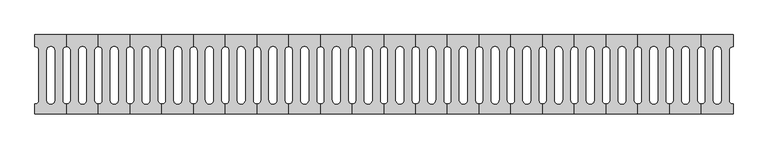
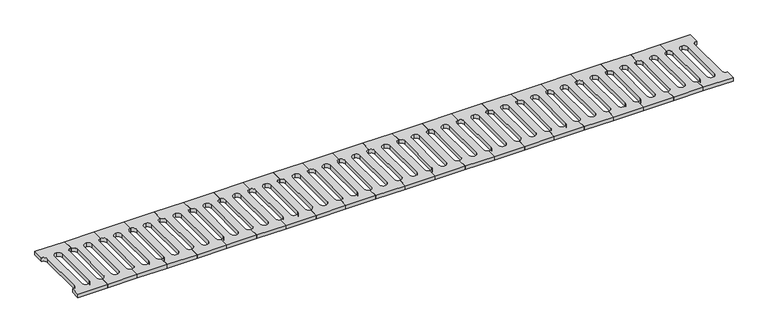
"""IFC4 building model written with IfcOpenShell, lengths in millimetres: proxy geometry, 排水沟盖板 : 排水沟盖板."""

from ifc_helpers import new_model, si_unit, point, frame, frame_2d, origin, place, context, project, spatial, polyline, circle_curve, trimmed, segment, composite_curve, outline, extrude, source, transform, mapped, element, save


def generic_models_980c342f(model_context):
    return source(origin(), model_context, "Body", "SweptSolid", [
        extrude(outline(composite_curve([segment(polyline([(6080.0, 200.0), (6080.0, 140.0)]), True, "CONTINUOUS"), segment(trimmed(circle_curve(frame_2d((6080.0, 120.0)), 20.0), [point((6080.0, 140.0))], [point((6060.0, 120.0))], True, "CARTESIAN"), True, "CONTINUOUS"), segment(polyline([(6060.0, 120.0), (6060.0, -130.0)]), True, "CONTINUOUS"), segment(trimmed(circle_curve(frame_2d((6080.0, -130.0)), 20.0), [point((6060.0, -130.0))], [point((6080.0, -150.0))], True, "CARTESIAN"), True, "CONTINUOUS"), segment(polyline([(6080.0, -150.0), (6080.0, -200.0), (5920.0, -200.0), (5920.0, -150.0)]), True, "CONTINUOUS"), segment(trimmed(circle_curve(frame_2d((5920.0, -130.0)), 20.0), [point((5920.0, -150.0))], [point((5940.0, -130.0))], True, "CARTESIAN"), True, "CONTINUOUS"), segment(polyline([(5940.0, -130.0), (5940.0, 120.0)]), True, "CONTINUOUS"), segment(trimmed(circle_curve(frame_2d((5920.0, 120.0)), 20.0), [point((5940.0, 120.0))], [point((5920.0, 140.0))], True, "CARTESIAN"), True, "CONTINUOUS"), segment(polyline([(5920.0, 140.0), (5920.0, 200.0), (6080.0, 200.0)]), True, "CONTINUOUS")], self_intersect=False), holes=[composite_curve([segment(trimmed(circle_curve(frame_2d((6000.0, -130.0)), 20.0), [point((5980.0, -130.0))], [point((6000.0, -150.0))], True, "CARTESIAN"), True, "CONTINUOUS"), segment(trimmed(circle_curve(frame_2d((6000.0, -130.0)), 20.0), [point((6000.0, -150.0))], [point((6020.0, -130.0))], True, "CARTESIAN"), True, "CONTINUOUS"), segment(polyline([(6020.0, -130.0), (6020.0, 120.0)]), True, "CONTINUOUS"), segment(trimmed(circle_curve(frame_2d((6000.0, 120.0)), 20.0), [point((6020.0, 120.0))], [point((6000.0, 140.0))], True, "CARTESIAN"), True, "CONTINUOUS"), segment(trimmed(circle_curve(frame_2d((6000.0, 120.0)), 20.0), [point((6000.0, 140.0))], [point((5980.0, 120.0))], True, "CARTESIAN"), True, "CONTINUOUS"), segment(polyline([(5980.0, 120.0), (5980.0, -130.0)]), True, "CONTINUOUS")], self_intersect=False)]), frame((0.0, 0.0, -20.0), z_axis=(0.0, 0.0, 1.0), x_axis=(1.0, 0.0, 0.0)), (0.0, 0.0, 1.0), 20.0),
        extrude(outline(composite_curve([segment(polyline([(5920.0, 200.0), (5920.0, 140.0)]), True, "CONTINUOUS"), segment(trimmed(circle_curve(frame_2d((5920.0, 120.0)), 20.0), [point((5920.0, 140.0))], [point((5900.0, 120.0))], True, "CARTESIAN"), True, "CONTINUOUS"), segment(polyline([(5900.0, 120.0), (5900.0, -130.0)]), True, "CONTINUOUS"), segment(trimmed(circle_curve(frame_2d((5920.0, -130.0)), 20.0), [point((5900.0, -130.0))], [point((5920.0, -150.0))], True, "CARTESIAN"), True, "CONTINUOUS"), segment(polyline([(5920.0, -150.0), (5920.0, -200.0), (5760.0, -200.0), (5760.0, -150.0)]), True, "CONTINUOUS"), segment(trimmed(circle_curve(frame_2d((5760.0, -130.0)), 20.0), [point((5760.0, -150.0))], [point((5780.0, -130.0))], True, "CARTESIAN"), True, "CONTINUOUS"), segment(polyline([(5780.0, -130.0), (5780.0, 120.0)]), True, "CONTINUOUS"), segment(trimmed(circle_curve(frame_2d((5760.0, 120.0)), 20.0), [point((5780.0, 120.0))], [point((5760.0, 140.0))], True, "CARTESIAN"), True, "CONTINUOUS"), segment(polyline([(5760.0, 140.0), (5760.0, 200.0), (5920.0, 200.0)]), True, "CONTINUOUS")], self_intersect=False), holes=[composite_curve([segment(trimmed(circle_curve(frame_2d((5840.0, -130.0)), 20.0), [point((5820.0, -130.0))], [point((5840.0, -150.0))], True, "CARTESIAN"), True, "CONTINUOUS"), segment(trimmed(circle_curve(frame_2d((5840.0, -130.0)), 20.0), [point((5840.0, -150.0))], [point((5860.0, -130.0))], True, "CARTESIAN"), True, "CONTINUOUS"), segment(polyline([(5860.0, -130.0), (5860.0, 120.0)]), True, "CONTINUOUS"), segment(trimmed(circle_curve(frame_2d((5840.0, 120.0)), 20.0), [point((5860.0, 120.0))], [point((5840.0, 140.0))], True, "CARTESIAN"), True, "CONTINUOUS"), segment(trimmed(circle_curve(frame_2d((5840.0, 120.0)), 20.0), [point((5840.0, 140.0))], [point((5820.0, 120.0))], True, "CARTESIAN"), True, "CONTINUOUS"), segment(polyline([(5820.0, 120.0), (5820.0, -130.0)]), True, "CONTINUOUS")], self_intersect=False)]), frame((0.0, 0.0, -20.0), z_axis=(0.0, 0.0, 1.0), x_axis=(1.0, 0.0, 0.0)), (0.0, 0.0, 1.0), 20.0),
        extrude(outline(composite_curve([segment(polyline([(5760.0, 200.0), (5760.0, 140.0)]), True, "CONTINUOUS"), segment(trimmed(circle_curve(frame_2d((5760.0, 120.0)), 20.0), [point((5760.0, 140.0))], [point((5740.0, 120.0))], True, "CARTESIAN"), True, "CONTINUOUS"), segment(polyline([(5740.0, 120.0), (5740.0, -130.0)]), True, "CONTINUOUS"), segment(trimmed(circle_curve(frame_2d((5760.0, -130.0)), 20.0), [point((5740.0, -130.0))], [point((5760.0, -150.0))], True, "CARTESIAN"), True, "CONTINUOUS"), segment(polyline([(5760.0, -150.0), (5760.0, -200.0), (5600.0, -200.0), (5600.0, -150.0)]), True, "CONTINUOUS"), segment(trimmed(circle_curve(frame_2d((5600.0, -130.0)), 20.0), [point((5600.0, -150.0))], [point((5620.0, -130.0))], True, "CARTESIAN"), True, "CONTINUOUS"), segment(polyline([(5620.0, -130.0), (5620.0, 120.0)]), True, "CONTINUOUS"), segment(trimmed(circle_curve(frame_2d((5600.0, 120.0)), 20.0), [point((5620.0, 120.0))], [point((5600.0, 140.0))], True, "CARTESIAN"), True, "CONTINUOUS"), segment(polyline([(5600.0, 140.0), (5600.0, 200.0), (5760.0, 200.0)]), True, "CONTINUOUS")], self_intersect=False), holes=[composite_curve([segment(trimmed(circle_curve(frame_2d((5680.0, -130.0)), 20.0), [point((5660.0, -130.0))], [point((5680.0, -150.0))], True, "CARTESIAN"), True, "CONTINUOUS"), segment(trimmed(circle_curve(frame_2d((5680.0, -130.0)), 20.0), [point((5680.0, -150.0))], [point((5700.0, -130.0))], True, "CARTESIAN"), True, "CONTINUOUS"), segment(polyline([(5700.0, -130.0), (5700.0, 120.0)]), True, "CONTINUOUS"), segment(trimmed(circle_curve(frame_2d((5680.0, 120.0)), 20.0), [point((5700.0, 120.0))], [point((5680.0, 140.0))], True, "CARTESIAN"), True, "CONTINUOUS"), segment(trimmed(circle_curve(frame_2d((5680.0, 120.0)), 20.0), [point((5680.0, 140.0))], [point((5660.0, 120.0))], True, "CARTESIAN"), True, "CONTINUOUS"), segment(polyline([(5660.0, 120.0), (5660.0, -130.0)]), True, "CONTINUOUS")], self_intersect=False)]), frame((0.0, 0.0, -20.0), z_axis=(0.0, 0.0, 1.0), x_axis=(1.0, 0.0, 0.0)), (0.0, 0.0, 1.0), 20.0),
        extrude(outline(composite_curve([segment(polyline([(5600.0, 200.0), (5600.0, 140.0)]), True, "CONTINUOUS"), segment(trimmed(circle_curve(frame_2d((5600.0, 120.0)), 20.0), [point((5600.0, 140.0))], [point((5580.0, 120.0))], True, "CARTESIAN"), True, "CONTINUOUS"), segment(polyline([(5580.0, 120.0), (5580.0, -130.0)]), True, "CONTINUOUS"), segment(trimmed(circle_curve(frame_2d((5600.0, -130.0)), 20.0), [point((5580.0, -130.0))], [point((5600.0, -150.0))], True, "CARTESIAN"), True, "CONTINUOUS"), segment(polyline([(5600.0, -150.0), (5600.0, -200.0), (5440.0, -200.0), (5440.0, -150.0)]), True, "CONTINUOUS"), segment(trimmed(circle_curve(frame_2d((5440.0, -130.0)), 20.0), [point((5440.0, -150.0))], [point((5460.0, -130.0))], True, "CARTESIAN"), True, "CONTINUOUS"), segment(polyline([(5460.0, -130.0), (5460.0, 120.0)]), True, "CONTINUOUS"), segment(trimmed(circle_curve(frame_2d((5440.0, 120.0)), 20.0), [point((5460.0, 120.0))], [point((5440.0, 140.0))], True, "CARTESIAN"), True, "CONTINUOUS"), segment(polyline([(5440.0, 140.0), (5440.0, 200.0), (5600.0, 200.0)]), True, "CONTINUOUS")], self_intersect=False), holes=[composite_curve([segment(trimmed(circle_curve(frame_2d((5520.0, -130.0)), 20.0), [point((5500.0, -130.0))], [point((5520.0, -150.0))], True, "CARTESIAN"), True, "CONTINUOUS"), segment(trimmed(circle_curve(frame_2d((5520.0, -130.0)), 20.0), [point((5520.0, -150.0))], [point((5540.0, -130.0))], True, "CARTESIAN"), True, "CONTINUOUS"), segment(polyline([(5540.0, -130.0), (5540.0, 120.0)]), True, "CONTINUOUS"), segment(trimmed(circle_curve(frame_2d((5520.0, 120.0)), 20.0), [point((5540.0, 120.0))], [point((5520.0, 140.0))], True, "CARTESIAN"), True, "CONTINUOUS"), segment(trimmed(circle_curve(frame_2d((5520.0, 120.0)), 20.0), [point((5520.0, 140.0))], [point((5500.0, 120.0))], True, "CARTESIAN"), True, "CONTINUOUS"), segment(polyline([(5500.0, 120.0), (5500.0, -130.0)]), True, "CONTINUOUS")], self_intersect=False)]), frame((0.0, 0.0, -20.0), z_axis=(0.0, 0.0, 1.0), x_axis=(1.0, 0.0, 0.0)), (0.0, 0.0, 1.0), 20.0),
        extrude(outline(composite_curve([segment(polyline([(5440.0, 200.0), (5440.0, 140.0)]), True, "CONTINUOUS"), segment(trimmed(circle_curve(frame_2d((5440.0, 120.0)), 20.0), [point((5440.0, 140.0))], [point((5420.0, 120.0))], True, "CARTESIAN"), True, "CONTINUOUS"), segment(polyline([(5420.0, 120.0), (5420.0, -130.0)]), True, "CONTINUOUS"), segment(trimmed(circle_curve(frame_2d((5440.0, -130.0)), 20.0), [point((5420.0, -130.0))], [point((5440.0, -150.0))], True, "CARTESIAN"), True, "CONTINUOUS"), segment(polyline([(5440.0, -150.0), (5440.0, -200.0), (5280.0, -200.0), (5280.0, -150.0)]), True, "CONTINUOUS"), segment(trimmed(circle_curve(frame_2d((5280.0, -130.0)), 20.0), [point((5280.0, -150.0))], [point((5300.0, -130.0))], True, "CARTESIAN"), True, "CONTINUOUS"), segment(polyline([(5300.0, -130.0), (5300.0, 120.0)]), True, "CONTINUOUS"), segment(trimmed(circle_curve(frame_2d((5280.0, 120.0)), 20.0), [point((5300.0, 120.0))], [point((5280.0, 140.0))], True, "CARTESIAN"), True, "CONTINUOUS"), segment(polyline([(5280.0, 140.0), (5280.0, 200.0), (5440.0, 200.0)]), True, "CONTINUOUS")], self_intersect=False), holes=[composite_curve([segment(trimmed(circle_curve(frame_2d((5360.0, -130.0)), 20.0), [point((5340.0, -130.0))], [point((5360.0, -150.0))], True, "CARTESIAN"), True, "CONTINUOUS"), segment(trimmed(circle_curve(frame_2d((5360.0, -130.0)), 20.0), [point((5360.0, -150.0))], [point((5380.0, -130.0))], True, "CARTESIAN"), True, "CONTINUOUS"), segment(polyline([(5380.0, -130.0), (5380.0, 120.0)]), True, "CONTINUOUS"), segment(trimmed(circle_curve(frame_2d((5360.0, 120.0)), 20.0), [point((5380.0, 120.0))], [point((5360.0, 140.0))], True, "CARTESIAN"), True, "CONTINUOUS"), segment(trimmed(circle_curve(frame_2d((5360.0, 120.0)), 20.0), [point((5360.0, 140.0))], [point((5340.0, 120.0))], True, "CARTESIAN"), True, "CONTINUOUS"), segment(polyline([(5340.0, 120.0), (5340.0, -130.0)]), True, "CONTINUOUS")], self_intersect=False)]), frame((0.0, 0.0, -20.0), z_axis=(0.0, 0.0, 1.0), x_axis=(1.0, 0.0, 0.0)), (0.0, 0.0, 1.0), 20.0),
        extrude(outline(composite_curve([segment(polyline([(5280.0, 200.0), (5280.0, 140.0)]), True, "CONTINUOUS"), segment(trimmed(circle_curve(frame_2d((5280.0, 120.0)), 20.0), [point((5280.0, 140.0))], [point((5260.0, 120.0))], True, "CARTESIAN"), True, "CONTINUOUS"), segment(polyline([(5260.0, 120.0), (5260.0, -130.0)]), True, "CONTINUOUS"), segment(trimmed(circle_curve(frame_2d((5280.0, -130.0)), 20.0), [point((5260.0, -130.0))], [point((5280.0, -150.0))], True, "CARTESIAN"), True, "CONTINUOUS"), segment(polyline([(5280.0, -150.0), (5280.0, -200.0), (5120.0, -200.0), (5120.0, -150.0)]), True, "CONTINUOUS"), segment(trimmed(circle_curve(frame_2d((5120.0, -130.0)), 20.0), [point((5120.0, -150.0))], [point((5140.0, -130.0))], True, "CARTESIAN"), True, "CONTINUOUS"), segment(polyline([(5140.0, -130.0), (5140.0, 120.0)]), True, "CONTINUOUS"), segment(trimmed(circle_curve(frame_2d((5120.0, 120.0)), 20.0), [point((5140.0, 120.0))], [point((5120.0, 140.0))], True, "CARTESIAN"), True, "CONTINUOUS"), segment(polyline([(5120.0, 140.0), (5120.0, 200.0), (5280.0, 200.0)]), True, "CONTINUOUS")], self_intersect=False), holes=[composite_curve([segment(trimmed(circle_curve(frame_2d((5200.0, -130.0)), 20.0), [point((5180.0, -130.0))], [point((5200.0, -150.0))], True, "CARTESIAN"), True, "CONTINUOUS"), segment(trimmed(circle_curve(frame_2d((5200.0, -130.0)), 20.0), [point((5200.0, -150.0))], [point((5220.0, -130.0))], True, "CARTESIAN"), True, "CONTINUOUS"), segment(polyline([(5220.0, -130.0), (5220.0, 120.0)]), True, "CONTINUOUS"), segment(trimmed(circle_curve(frame_2d((5200.0, 120.0)), 20.0), [point((5220.0, 120.0))], [point((5200.0, 140.0))], True, "CARTESIAN"), True, "CONTINUOUS"), segment(trimmed(circle_curve(frame_2d((5200.0, 120.0)), 20.0), [point((5200.0, 140.0))], [point((5180.0, 120.0))], True, "CARTESIAN"), True, "CONTINUOUS"), segment(polyline([(5180.0, 120.0), (5180.0, -130.0)]), True, "CONTINUOUS")], self_intersect=False)]), frame((0.0, 0.0, -20.0), z_axis=(0.0, 0.0, 1.0), x_axis=(1.0, 0.0, 0.0)), (0.0, 0.0, 1.0), 20.0),
        extrude(outline(composite_curve([segment(polyline([(5120.0, 200.0), (5120.0, 140.0)]), True, "CONTINUOUS"), segment(trimmed(circle_curve(frame_2d((5120.0, 120.0)), 20.0), [point((5120.0, 140.0))], [point((5100.0, 120.0))], True, "CARTESIAN"), True, "CONTINUOUS"), segment(polyline([(5100.0, 120.0), (5100.0, -130.0)]), True, "CONTINUOUS"), segment(trimmed(circle_curve(frame_2d((5120.0, -130.0)), 20.0), [point((5100.0, -130.0))], [point((5120.0, -150.0))], True, "CARTESIAN"), True, "CONTINUOUS"), segment(polyline([(5120.0, -150.0), (5120.0, -200.0), (4960.0, -200.0), (4960.0, -150.0)]), True, "CONTINUOUS"), segment(trimmed(circle_curve(frame_2d((4960.0, -130.0)), 20.0), [point((4960.0, -150.0))], [point((4980.0, -130.0))], True, "CARTESIAN"), True, "CONTINUOUS"), segment(polyline([(4980.0, -130.0), (4980.0, 120.0)]), True, "CONTINUOUS"), segment(trimmed(circle_curve(frame_2d((4960.0, 120.0)), 20.0), [point((4980.0, 120.0))], [point((4960.0, 140.0))], True, "CARTESIAN"), True, "CONTINUOUS"), segment(polyline([(4960.0, 140.0), (4960.0, 200.0), (5120.0, 200.0)]), True, "CONTINUOUS")], self_intersect=False), holes=[composite_curve([segment(trimmed(circle_curve(frame_2d((5040.0, -130.0)), 20.0), [point((5020.0, -130.0))], [point((5040.0, -150.0))], True, "CARTESIAN"), True, "CONTINUOUS"), segment(trimmed(circle_curve(frame_2d((5040.0, -130.0)), 20.0), [point((5040.0, -150.0))], [point((5060.0, -130.0))], True, "CARTESIAN"), True, "CONTINUOUS"), segment(polyline([(5060.0, -130.0), (5060.0, 120.0)]), True, "CONTINUOUS"), segment(trimmed(circle_curve(frame_2d((5040.0, 120.0)), 20.0), [point((5060.0, 120.0))], [point((5040.0, 140.0))], True, "CARTESIAN"), True, "CONTINUOUS"), segment(trimmed(circle_curve(frame_2d((5040.0, 120.0)), 20.0), [point((5040.0, 140.0))], [point((5020.0, 120.0))], True, "CARTESIAN"), True, "CONTINUOUS"), segment(polyline([(5020.0, 120.0), (5020.0, -130.0)]), True, "CONTINUOUS")], self_intersect=False)]), frame((0.0, 0.0, -20.0), z_axis=(0.0, 0.0, 1.0), x_axis=(1.0, 0.0, 0.0)), (0.0, 0.0, 1.0), 20.0),
        extrude(outline(composite_curve([segment(polyline([(4960.0, 200.0), (4960.0, 140.0)]), True, "CONTINUOUS"), segment(trimmed(circle_curve(frame_2d((4960.0, 120.0)), 20.0), [point((4960.0, 140.0))], [point((4940.0, 120.0))], True, "CARTESIAN"), True, "CONTINUOUS"), segment(polyline([(4940.0, 120.0), (4940.0, -130.0)]), True, "CONTINUOUS"), segment(trimmed(circle_curve(frame_2d((4960.0, -130.0)), 20.0), [point((4940.0, -130.0))], [point((4960.0, -150.0))], True, "CARTESIAN"), True, "CONTINUOUS"), segment(polyline([(4960.0, -150.0), (4960.0, -200.0), (4800.0, -200.0), (4800.0, -150.0)]), True, "CONTINUOUS"), segment(trimmed(circle_curve(frame_2d((4800.0, -130.0)), 20.0), [point((4800.0, -150.0))], [point((4820.0, -130.0))], True, "CARTESIAN"), True, "CONTINUOUS"), segment(polyline([(4820.0, -130.0), (4820.0, 120.0)]), True, "CONTINUOUS"), segment(trimmed(circle_curve(frame_2d((4800.0, 120.0)), 20.0), [point((4820.0, 120.0))], [point((4800.0, 140.0))], True, "CARTESIAN"), True, "CONTINUOUS"), segment(polyline([(4800.0, 140.0), (4800.0, 200.0), (4960.0, 200.0)]), True, "CONTINUOUS")], self_intersect=False), holes=[composite_curve([segment(trimmed(circle_curve(frame_2d((4880.0, -130.0)), 20.0), [point((4860.0, -130.0))], [point((4880.0, -150.0))], True, "CARTESIAN"), True, "CONTINUOUS"), segment(trimmed(circle_curve(frame_2d((4880.0, -130.0)), 20.0), [point((4880.0, -150.0))], [point((4900.0, -130.0))], True, "CARTESIAN"), True, "CONTINUOUS"), segment(polyline([(4900.0, -130.0), (4900.0, 120.0)]), True, "CONTINUOUS"), segment(trimmed(circle_curve(frame_2d((4880.0, 120.0)), 20.0), [point((4900.0, 120.0))], [point((4880.0, 140.0))], True, "CARTESIAN"), True, "CONTINUOUS"), segment(trimmed(circle_curve(frame_2d((4880.0, 120.0)), 20.0), [point((4880.0, 140.0))], [point((4860.0, 120.0))], True, "CARTESIAN"), True, "CONTINUOUS"), segment(polyline([(4860.0, 120.0), (4860.0, -130.0)]), True, "CONTINUOUS")], self_intersect=False)]), frame((0.0, 0.0, -20.0), z_axis=(0.0, 0.0, 1.0), x_axis=(1.0, 0.0, 0.0)), (0.0, 0.0, 1.0), 20.0),
        extrude(outline(composite_curve([segment(polyline([(4800.0, 200.0), (4800.0, 140.0)]), True, "CONTINUOUS"), segment(trimmed(circle_curve(frame_2d((4800.0, 120.0)), 20.0), [point((4800.0, 140.0))], [point((4780.0, 120.0))], True, "CARTESIAN"), True, "CONTINUOUS"), segment(polyline([(4780.0, 120.0), (4780.0, -130.0)]), True, "CONTINUOUS"), segment(trimmed(circle_curve(frame_2d((4800.0, -130.0)), 20.0), [point((4780.0, -130.0))], [point((4800.0, -150.0))], True, "CARTESIAN"), True, "CONTINUOUS"), segment(polyline([(4800.0, -150.0), (4800.0, -200.0), (4640.0, -200.0), (4640.0, -150.0)]), True, "CONTINUOUS"), segment(trimmed(circle_curve(frame_2d((4640.0, -130.0)), 20.0), [point((4640.0, -150.0))], [point((4660.0, -130.0))], True, "CARTESIAN"), True, "CONTINUOUS"), segment(polyline([(4660.0, -130.0), (4660.0, 120.0)]), True, "CONTINUOUS"), segment(trimmed(circle_curve(frame_2d((4640.0, 120.0)), 20.0), [point((4660.0, 120.0))], [point((4640.0, 140.0))], True, "CARTESIAN"), True, "CONTINUOUS"), segment(polyline([(4640.0, 140.0), (4640.0, 200.0), (4800.0, 200.0)]), True, "CONTINUOUS")], self_intersect=False), holes=[composite_curve([segment(trimmed(circle_curve(frame_2d((4720.0, -130.0)), 20.0), [point((4700.0, -130.0))], [point((4720.0, -150.0))], True, "CARTESIAN"), True, "CONTINUOUS"), segment(trimmed(circle_curve(frame_2d((4720.0, -130.0)), 20.0), [point((4720.0, -150.0))], [point((4740.0, -130.0))], True, "CARTESIAN"), True, "CONTINUOUS"), segment(polyline([(4740.0, -130.0), (4740.0, 120.0)]), True, "CONTINUOUS"), segment(trimmed(circle_curve(frame_2d((4720.0, 120.0)), 20.0), [point((4740.0, 120.0))], [point((4720.0, 140.0))], True, "CARTESIAN"), True, "CONTINUOUS"), segment(trimmed(circle_curve(frame_2d((4720.0, 120.0)), 20.0), [point((4720.0, 140.0))], [point((4700.0, 120.0))], True, "CARTESIAN"), True, "CONTINUOUS"), segment(polyline([(4700.0, 120.0), (4700.0, -130.0)]), True, "CONTINUOUS")], self_intersect=False)]), frame((0.0, 0.0, -20.0), z_axis=(0.0, 0.0, 1.0), x_axis=(1.0, 0.0, 0.0)), (0.0, 0.0, 1.0), 20.0),
        extrude(outline(composite_curve([segment(polyline([(4640.0, 200.0), (4640.0, 140.0)]), True, "CONTINUOUS"), segment(trimmed(circle_curve(frame_2d((4640.0, 120.0)), 20.0), [point((4640.0, 140.0))], [point((4620.0, 120.0))], True, "CARTESIAN"), True, "CONTINUOUS"), segment(polyline([(4620.0, 120.0), (4620.0, -130.0)]), True, "CONTINUOUS"), segment(trimmed(circle_curve(frame_2d((4640.0, -130.0)), 20.0), [point((4620.0, -130.0))], [point((4640.0, -150.0))], True, "CARTESIAN"), True, "CONTINUOUS"), segment(polyline([(4640.0, -150.0), (4640.0, -200.0), (4480.0, -200.0), (4480.0, -150.0)]), True, "CONTINUOUS"), segment(trimmed(circle_curve(frame_2d((4480.0, -130.0)), 20.0), [point((4480.0, -150.0))], [point((4500.0, -130.0))], True, "CARTESIAN"), True, "CONTINUOUS"), segment(polyline([(4500.0, -130.0), (4500.0, 120.0)]), True, "CONTINUOUS"), segment(trimmed(circle_curve(frame_2d((4480.0, 120.0)), 20.0), [point((4500.0, 120.0))], [point((4480.0, 140.0))], True, "CARTESIAN"), True, "CONTINUOUS"), segment(polyline([(4480.0, 140.0), (4480.0, 200.0), (4640.0, 200.0)]), True, "CONTINUOUS")], self_intersect=False), holes=[composite_curve([segment(trimmed(circle_curve(frame_2d((4560.0, -130.0)), 20.0), [point((4540.0, -130.0))], [point((4560.0, -150.0))], True, "CARTESIAN"), True, "CONTINUOUS"), segment(trimmed(circle_curve(frame_2d((4560.0, -130.0)), 20.0), [point((4560.0, -150.0))], [point((4580.0, -130.0))], True, "CARTESIAN"), True, "CONTINUOUS"), segment(polyline([(4580.0, -130.0), (4580.0, 120.0)]), True, "CONTINUOUS"), segment(trimmed(circle_curve(frame_2d((4560.0, 120.0)), 20.0), [point((4580.0, 120.0))], [point((4560.0, 140.0))], True, "CARTESIAN"), True, "CONTINUOUS"), segment(trimmed(circle_curve(frame_2d((4560.0, 120.0)), 20.0), [point((4560.0, 140.0))], [point((4540.0, 120.0))], True, "CARTESIAN"), True, "CONTINUOUS"), segment(polyline([(4540.0, 120.0), (4540.0, -130.0)]), True, "CONTINUOUS")], self_intersect=False)]), frame((0.0, 0.0, -20.0), z_axis=(0.0, 0.0, 1.0), x_axis=(1.0, 0.0, 0.0)), (0.0, 0.0, 1.0), 20.0),
        extrude(outline(composite_curve([segment(polyline([(4480.0, 200.0), (4480.0, 140.0)]), True, "CONTINUOUS"), segment(trimmed(circle_curve(frame_2d((4480.0, 120.0)), 20.0), [point((4480.0, 140.0))], [point((4460.0, 120.0))], True, "CARTESIAN"), True, "CONTINUOUS"), segment(polyline([(4460.0, 120.0), (4460.0, -130.0)]), True, "CONTINUOUS"), segment(trimmed(circle_curve(frame_2d((4480.0, -130.0)), 20.0), [point((4460.0, -130.0))], [point((4480.0, -150.0))], True, "CARTESIAN"), True, "CONTINUOUS"), segment(polyline([(4480.0, -150.0), (4480.0, -200.0), (4320.0, -200.0), (4320.0, -150.0)]), True, "CONTINUOUS"), segment(trimmed(circle_curve(frame_2d((4320.0, -130.0)), 20.0), [point((4320.0, -150.0))], [point((4340.0, -130.0))], True, "CARTESIAN"), True, "CONTINUOUS"), segment(polyline([(4340.0, -130.0), (4340.0, 120.0)]), True, "CONTINUOUS"), segment(trimmed(circle_curve(frame_2d((4320.0, 120.0)), 20.0), [point((4340.0, 120.0))], [point((4320.0, 140.0))], True, "CARTESIAN"), True, "CONTINUOUS"), segment(polyline([(4320.0, 140.0), (4320.0, 200.0), (4480.0, 200.0)]), True, "CONTINUOUS")], self_intersect=False), holes=[composite_curve([segment(trimmed(circle_curve(frame_2d((4400.0, -130.0)), 20.0), [point((4380.0, -130.0))], [point((4400.0, -150.0))], True, "CARTESIAN"), True, "CONTINUOUS"), segment(trimmed(circle_curve(frame_2d((4400.0, -130.0)), 20.0), [point((4400.0, -150.0))], [point((4420.0, -130.0))], True, "CARTESIAN"), True, "CONTINUOUS"), segment(polyline([(4420.0, -130.0), (4420.0, 120.0)]), True, "CONTINUOUS"), segment(trimmed(circle_curve(frame_2d((4400.0, 120.0)), 20.0), [point((4420.0, 120.0))], [point((4400.0, 140.0))], True, "CARTESIAN"), True, "CONTINUOUS"), segment(trimmed(circle_curve(frame_2d((4400.0, 120.0)), 20.0), [point((4400.0, 140.0))], [point((4380.0, 120.0))], True, "CARTESIAN"), True, "CONTINUOUS"), segment(polyline([(4380.0, 120.0), (4380.0, -130.0)]), True, "CONTINUOUS")], self_intersect=False)]), frame((0.0, 0.0, -20.0), z_axis=(0.0, 0.0, 1.0), x_axis=(1.0, 0.0, 0.0)), (0.0, 0.0, 1.0), 20.0),
        extrude(outline(composite_curve([segment(polyline([(4320.0, 200.0), (4320.0, 140.0)]), True, "CONTINUOUS"), segment(trimmed(circle_curve(frame_2d((4320.0, 120.0)), 20.0), [point((4320.0, 140.0))], [point((4300.0, 120.0))], True, "CARTESIAN"), True, "CONTINUOUS"), segment(polyline([(4300.0, 120.0), (4300.0, -130.0)]), True, "CONTINUOUS"), segment(trimmed(circle_curve(frame_2d((4320.0, -130.0)), 20.0), [point((4300.0, -130.0))], [point((4320.0, -150.0))], True, "CARTESIAN"), True, "CONTINUOUS"), segment(polyline([(4320.0, -150.0), (4320.0, -200.0), (4160.0, -200.0), (4160.0, -150.0)]), True, "CONTINUOUS"), segment(trimmed(circle_curve(frame_2d((4160.0, -130.0)), 20.0), [point((4160.0, -150.0))], [point((4180.0, -130.0))], True, "CARTESIAN"), True, "CONTINUOUS"), segment(polyline([(4180.0, -130.0), (4180.0, 120.0)]), True, "CONTINUOUS"), segment(trimmed(circle_curve(frame_2d((4160.0, 120.0)), 20.0), [point((4180.0, 120.0))], [point((4160.0, 140.0))], True, "CARTESIAN"), True, "CONTINUOUS"), segment(polyline([(4160.0, 140.0), (4160.0, 200.0), (4320.0, 200.0)]), True, "CONTINUOUS")], self_intersect=False), holes=[composite_curve([segment(trimmed(circle_curve(frame_2d((4240.0, -130.0)), 20.0), [point((4220.0, -130.0))], [point((4240.0, -150.0))], True, "CARTESIAN"), True, "CONTINUOUS"), segment(trimmed(circle_curve(frame_2d((4240.0, -130.0)), 20.0), [point((4240.0, -150.0))], [point((4260.0, -130.0))], True, "CARTESIAN"), True, "CONTINUOUS"), segment(polyline([(4260.0, -130.0), (4260.0, 120.0)]), True, "CONTINUOUS"), segment(trimmed(circle_curve(frame_2d((4240.0, 120.0)), 20.0), [point((4260.0, 120.0))], [point((4240.0, 140.0))], True, "CARTESIAN"), True, "CONTINUOUS"), segment(trimmed(circle_curve(frame_2d((4240.0, 120.0)), 20.0), [point((4240.0, 140.0))], [point((4220.0, 120.0))], True, "CARTESIAN"), True, "CONTINUOUS"), segment(polyline([(4220.0, 120.0), (4220.0, -130.0)]), True, "CONTINUOUS")], self_intersect=False)]), frame((0.0, 0.0, -20.0), z_axis=(0.0, 0.0, 1.0), x_axis=(1.0, 0.0, 0.0)), (0.0, 0.0, 1.0), 20.0),
        extrude(outline(composite_curve([segment(polyline([(4160.0, 200.0), (4160.0, 140.0)]), True, "CONTINUOUS"), segment(trimmed(circle_curve(frame_2d((4160.0, 120.0)), 20.0), [point((4160.0, 140.0))], [point((4140.0, 120.0))], True, "CARTESIAN"), True, "CONTINUOUS"), segment(polyline([(4140.0, 120.0), (4140.0, -130.0)]), True, "CONTINUOUS"), segment(trimmed(circle_curve(frame_2d((4160.0, -130.0)), 20.0), [point((4140.0, -130.0))], [point((4160.0, -150.0))], True, "CARTESIAN"), True, "CONTINUOUS"), segment(polyline([(4160.0, -150.0), (4160.0, -200.0), (4000.0, -200.0), (4000.0, -150.0)]), True, "CONTINUOUS"), segment(trimmed(circle_curve(frame_2d((4000.0, -130.0)), 20.0), [point((4000.0, -150.0))], [point((4020.0, -130.0))], True, "CARTESIAN"), True, "CONTINUOUS"), segment(polyline([(4020.0, -130.0), (4020.0, 120.0)]), True, "CONTINUOUS"), segment(trimmed(circle_curve(frame_2d((4000.0, 120.0)), 20.0), [point((4020.0, 120.0))], [point((4000.0, 140.0))], True, "CARTESIAN"), True, "CONTINUOUS"), segment(polyline([(4000.0, 140.0), (4000.0, 200.0), (4160.0, 200.0)]), True, "CONTINUOUS")], self_intersect=False), holes=[composite_curve([segment(trimmed(circle_curve(frame_2d((4080.0, -130.0)), 20.0), [point((4060.0, -130.0))], [point((4080.0, -150.0))], True, "CARTESIAN"), True, "CONTINUOUS"), segment(trimmed(circle_curve(frame_2d((4080.0, -130.0)), 20.0), [point((4080.0, -150.0))], [point((4100.0, -130.0))], True, "CARTESIAN"), True, "CONTINUOUS"), segment(polyline([(4100.0, -130.0), (4100.0, 120.0)]), True, "CONTINUOUS"), segment(trimmed(circle_curve(frame_2d((4080.0, 120.0)), 20.0), [point((4100.0, 120.0))], [point((4080.0, 140.0))], True, "CARTESIAN"), True, "CONTINUOUS"), segment(trimmed(circle_curve(frame_2d((4080.0, 120.0)), 20.0), [point((4080.0, 140.0))], [point((4060.0, 120.0))], True, "CARTESIAN"), True, "CONTINUOUS"), segment(polyline([(4060.0, 120.0), (4060.0, -130.0)]), True, "CONTINUOUS")], self_intersect=False)]), frame((0.0, 0.0, -20.0), z_axis=(0.0, 0.0, 1.0), x_axis=(1.0, 0.0, 0.0)), (0.0, 0.0, 1.0), 20.0),
        extrude(outline(composite_curve([segment(polyline([(4000.0, 200.0), (4000.0, 140.0)]), True, "CONTINUOUS"), segment(trimmed(circle_curve(frame_2d((4000.0, 120.0)), 20.0), [point((4000.0, 140.0))], [point((3980.0, 120.0))], True, "CARTESIAN"), True, "CONTINUOUS"), segment(polyline([(3980.0, 120.0), (3980.0, -130.0)]), True, "CONTINUOUS"), segment(trimmed(circle_curve(frame_2d((4000.0, -130.0)), 20.0), [point((3980.0, -130.0))], [point((4000.0, -150.0))], True, "CARTESIAN"), True, "CONTINUOUS"), segment(polyline([(4000.0, -150.0), (4000.0, -200.0), (3840.0, -200.0), (3840.0, -150.0)]), True, "CONTINUOUS"), segment(trimmed(circle_curve(frame_2d((3840.0, -130.0)), 20.0), [point((3840.0, -150.0))], [point((3860.0, -130.0))], True, "CARTESIAN"), True, "CONTINUOUS"), segment(polyline([(3860.0, -130.0), (3860.0, 120.0)]), True, "CONTINUOUS"), segment(trimmed(circle_curve(frame_2d((3840.0, 120.0)), 20.0), [point((3860.0, 120.0))], [point((3840.0, 140.0))], True, "CARTESIAN"), True, "CONTINUOUS"), segment(polyline([(3840.0, 140.0), (3840.0, 200.0), (4000.0, 200.0)]), True, "CONTINUOUS")], self_intersect=False), holes=[composite_curve([segment(trimmed(circle_curve(frame_2d((3920.0, -130.0)), 20.0), [point((3900.0, -130.0))], [point((3920.0, -150.0))], True, "CARTESIAN"), True, "CONTINUOUS"), segment(trimmed(circle_curve(frame_2d((3920.0, -130.0)), 20.0), [point((3920.0, -150.0))], [point((3940.0, -130.0))], True, "CARTESIAN"), True, "CONTINUOUS"), segment(polyline([(3940.0, -130.0), (3940.0, 120.0)]), True, "CONTINUOUS"), segment(trimmed(circle_curve(frame_2d((3920.0, 120.0)), 20.0), [point((3940.0, 120.0))], [point((3920.0, 140.0))], True, "CARTESIAN"), True, "CONTINUOUS"), segment(trimmed(circle_curve(frame_2d((3920.0, 120.0)), 20.0), [point((3920.0, 140.0))], [point((3900.0, 120.0))], True, "CARTESIAN"), True, "CONTINUOUS"), segment(polyline([(3900.0, 120.0), (3900.0, -130.0)]), True, "CONTINUOUS")], self_intersect=False)]), frame((0.0, 0.0, -20.0), z_axis=(0.0, 0.0, 1.0), x_axis=(1.0, 0.0, 0.0)), (0.0, 0.0, 1.0), 20.0),
        extrude(outline(composite_curve([segment(polyline([(3840.0, 200.0), (3840.0, 140.0)]), True, "CONTINUOUS"), segment(trimmed(circle_curve(frame_2d((3840.0, 120.0)), 20.0), [point((3840.0, 140.0))], [point((3820.0, 120.0))], True, "CARTESIAN"), True, "CONTINUOUS"), segment(polyline([(3820.0, 120.0), (3820.0, -130.0)]), True, "CONTINUOUS"), segment(trimmed(circle_curve(frame_2d((3840.0, -130.0)), 20.0), [point((3820.0, -130.0))], [point((3840.0, -150.0))], True, "CARTESIAN"), True, "CONTINUOUS"), segment(polyline([(3840.0, -150.0), (3840.0, -200.0), (3680.0, -200.0), (3680.0, -150.0)]), True, "CONTINUOUS"), segment(trimmed(circle_curve(frame_2d((3680.0, -130.0)), 20.0), [point((3680.0, -150.0))], [point((3700.0, -130.0))], True, "CARTESIAN"), True, "CONTINUOUS"), segment(polyline([(3700.0, -130.0), (3700.0, 120.0)]), True, "CONTINUOUS"), segment(trimmed(circle_curve(frame_2d((3680.0, 120.0)), 20.0), [point((3700.0, 120.0))], [point((3680.0, 140.0))], True, "CARTESIAN"), True, "CONTINUOUS"), segment(polyline([(3680.0, 140.0), (3680.0, 200.0), (3840.0, 200.0)]), True, "CONTINUOUS")], self_intersect=False), holes=[composite_curve([segment(trimmed(circle_curve(frame_2d((3760.0, -130.0)), 20.0), [point((3740.0, -130.0))], [point((3760.0, -150.0))], True, "CARTESIAN"), True, "CONTINUOUS"), segment(trimmed(circle_curve(frame_2d((3760.0, -130.0)), 20.0), [point((3760.0, -150.0))], [point((3780.0, -130.0))], True, "CARTESIAN"), True, "CONTINUOUS"), segment(polyline([(3780.0, -130.0), (3780.0, 120.0)]), True, "CONTINUOUS"), segment(trimmed(circle_curve(frame_2d((3760.0, 120.0)), 20.0), [point((3780.0, 120.0))], [point((3760.0, 140.0))], True, "CARTESIAN"), True, "CONTINUOUS"), segment(trimmed(circle_curve(frame_2d((3760.0, 120.0)), 20.0), [point((3760.0, 140.0))], [point((3740.0, 120.0))], True, "CARTESIAN"), True, "CONTINUOUS"), segment(polyline([(3740.0, 120.0), (3740.0, -130.0)]), True, "CONTINUOUS")], self_intersect=False)]), frame((0.0, 0.0, -20.0), z_axis=(0.0, 0.0, 1.0), x_axis=(1.0, 0.0, 0.0)), (0.0, 0.0, 1.0), 20.0),
        extrude(outline(composite_curve([segment(polyline([(3680.0, 200.0), (3680.0, 140.0)]), True, "CONTINUOUS"), segment(trimmed(circle_curve(frame_2d((3680.0, 120.0)), 20.0), [point((3680.0, 140.0))], [point((3660.0, 120.0))], True, "CARTESIAN"), True, "CONTINUOUS"), segment(polyline([(3660.0, 120.0), (3660.0, -130.0)]), True, "CONTINUOUS"), segment(trimmed(circle_curve(frame_2d((3680.0, -130.0)), 20.0), [point((3660.0, -130.0))], [point((3680.0, -150.0))], True, "CARTESIAN"), True, "CONTINUOUS"), segment(polyline([(3680.0, -150.0), (3680.0, -200.0), (3520.0, -200.0), (3520.0, -150.0)]), True, "CONTINUOUS"), segment(trimmed(circle_curve(frame_2d((3520.0, -130.0)), 20.0), [point((3520.0, -150.0))], [point((3540.0, -130.0))], True, "CARTESIAN"), True, "CONTINUOUS"), segment(polyline([(3540.0, -130.0), (3540.0, 120.0)]), True, "CONTINUOUS"), segment(trimmed(circle_curve(frame_2d((3520.0, 120.0)), 20.0), [point((3540.0, 120.0))], [point((3520.0, 140.0))], True, "CARTESIAN"), True, "CONTINUOUS"), segment(polyline([(3520.0, 140.0), (3520.0, 200.0), (3680.0, 200.0)]), True, "CONTINUOUS")], self_intersect=False), holes=[composite_curve([segment(trimmed(circle_curve(frame_2d((3600.0, -130.0)), 20.0), [point((3580.0, -130.0))], [point((3600.0, -150.0))], True, "CARTESIAN"), True, "CONTINUOUS"), segment(trimmed(circle_curve(frame_2d((3600.0, -130.0)), 20.0), [point((3600.0, -150.0))], [point((3620.0, -130.0))], True, "CARTESIAN"), True, "CONTINUOUS"), segment(polyline([(3620.0, -130.0), (3620.0, 120.0)]), True, "CONTINUOUS"), segment(trimmed(circle_curve(frame_2d((3600.0, 120.0)), 20.0), [point((3620.0, 120.0))], [point((3600.0, 140.0))], True, "CARTESIAN"), True, "CONTINUOUS"), segment(trimmed(circle_curve(frame_2d((3600.0, 120.0)), 20.0), [point((3600.0, 140.0))], [point((3580.0, 120.0))], True, "CARTESIAN"), True, "CONTINUOUS"), segment(polyline([(3580.0, 120.0), (3580.0, -130.0)]), True, "CONTINUOUS")], self_intersect=False)]), frame((0.0, 0.0, -20.0), z_axis=(0.0, 0.0, 1.0), x_axis=(1.0, 0.0, 0.0)), (0.0, 0.0, 1.0), 20.0),
        extrude(outline(composite_curve([segment(polyline([(3520.0, 200.0), (3520.0, 140.0)]), True, "CONTINUOUS"), segment(trimmed(circle_curve(frame_2d((3520.0, 120.0)), 20.0), [point((3520.0, 140.0))], [point((3500.0, 120.0))], True, "CARTESIAN"), True, "CONTINUOUS"), segment(polyline([(3500.0, 120.0), (3500.0, -130.0)]), True, "CONTINUOUS"), segment(trimmed(circle_curve(frame_2d((3520.0, -130.0)), 20.0), [point((3500.0, -130.0))], [point((3520.0, -150.0))], True, "CARTESIAN"), True, "CONTINUOUS"), segment(polyline([(3520.0, -150.0), (3520.0, -200.0), (3360.0, -200.0), (3360.0, -150.0)]), True, "CONTINUOUS"), segment(trimmed(circle_curve(frame_2d((3360.0, -130.0)), 20.0), [point((3360.0, -150.0))], [point((3380.0, -130.0))], True, "CARTESIAN"), True, "CONTINUOUS"), segment(polyline([(3380.0, -130.0), (3380.0, 120.0)]), True, "CONTINUOUS"), segment(trimmed(circle_curve(frame_2d((3360.0, 120.0)), 20.0), [point((3380.0, 120.0))], [point((3360.0, 140.0))], True, "CARTESIAN"), True, "CONTINUOUS"), segment(polyline([(3360.0, 140.0), (3360.0, 200.0), (3520.0, 200.0)]), True, "CONTINUOUS")], self_intersect=False), holes=[composite_curve([segment(trimmed(circle_curve(frame_2d((3440.0, -130.0)), 20.0), [point((3420.0, -130.0))], [point((3440.0, -150.0))], True, "CARTESIAN"), True, "CONTINUOUS"), segment(trimmed(circle_curve(frame_2d((3440.0, -130.0)), 20.0), [point((3440.0, -150.0))], [point((3460.0, -130.0))], True, "CARTESIAN"), True, "CONTINUOUS"), segment(polyline([(3460.0, -130.0), (3460.0, 120.0)]), True, "CONTINUOUS"), segment(trimmed(circle_curve(frame_2d((3440.0, 120.0)), 20.0), [point((3460.0, 120.0))], [point((3440.0, 140.0))], True, "CARTESIAN"), True, "CONTINUOUS"), segment(trimmed(circle_curve(frame_2d((3440.0, 120.0)), 20.0), [point((3440.0, 140.0))], [point((3420.0, 120.0))], True, "CARTESIAN"), True, "CONTINUOUS"), segment(polyline([(3420.0, 120.0), (3420.0, -130.0)]), True, "CONTINUOUS")], self_intersect=False)]), frame((0.0, 0.0, -20.0), z_axis=(0.0, 0.0, 1.0), x_axis=(1.0, 0.0, 0.0)), (0.0, 0.0, 1.0), 20.0),
        extrude(outline(composite_curve([segment(polyline([(3360.0, 200.0), (3360.0, 140.0)]), True, "CONTINUOUS"), segment(trimmed(circle_curve(frame_2d((3360.0, 120.0)), 20.0), [point((3360.0, 140.0))], [point((3340.0, 120.0))], True, "CARTESIAN"), True, "CONTINUOUS"), segment(polyline([(3340.0, 120.0), (3340.0, -130.0)]), True, "CONTINUOUS"), segment(trimmed(circle_curve(frame_2d((3360.0, -130.0)), 20.0), [point((3340.0, -130.0))], [point((3360.0, -150.0))], True, "CARTESIAN"), True, "CONTINUOUS"), segment(polyline([(3360.0, -150.0), (3360.0, -200.0), (3200.0, -200.0), (3200.0, -150.0)]), True, "CONTINUOUS"), segment(trimmed(circle_curve(frame_2d((3200.0, -130.0)), 20.0), [point((3200.0, -150.0))], [point((3220.0, -130.0))], True, "CARTESIAN"), True, "CONTINUOUS"), segment(polyline([(3220.0, -130.0), (3220.0, 120.0)]), True, "CONTINUOUS"), segment(trimmed(circle_curve(frame_2d((3200.0, 120.0)), 20.0), [point((3220.0, 120.0))], [point((3200.0, 140.0))], True, "CARTESIAN"), True, "CONTINUOUS"), segment(polyline([(3200.0, 140.0), (3200.0, 200.0), (3360.0, 200.0)]), True, "CONTINUOUS")], self_intersect=False), holes=[composite_curve([segment(trimmed(circle_curve(frame_2d((3280.0, -130.0)), 20.0), [point((3260.0, -130.0))], [point((3280.0, -150.0))], True, "CARTESIAN"), True, "CONTINUOUS"), segment(trimmed(circle_curve(frame_2d((3280.0, -130.0)), 20.0), [point((3280.0, -150.0))], [point((3300.0, -130.0))], True, "CARTESIAN"), True, "CONTINUOUS"), segment(polyline([(3300.0, -130.0), (3300.0, 120.0)]), True, "CONTINUOUS"), segment(trimmed(circle_curve(frame_2d((3280.0, 120.0)), 20.0), [point((3300.0, 120.0))], [point((3280.0, 140.0))], True, "CARTESIAN"), True, "CONTINUOUS"), segment(trimmed(circle_curve(frame_2d((3280.0, 120.0)), 20.0), [point((3280.0, 140.0))], [point((3260.0, 120.0))], True, "CARTESIAN"), True, "CONTINUOUS"), segment(polyline([(3260.0, 120.0), (3260.0, -130.0)]), True, "CONTINUOUS")], self_intersect=False)]), frame((0.0, 0.0, -20.0), z_axis=(0.0, 0.0, 1.0), x_axis=(1.0, 0.0, 0.0)), (0.0, 0.0, 1.0), 20.0),
        extrude(outline(composite_curve([segment(polyline([(3200.0, 200.0), (3200.0, 140.0)]), True, "CONTINUOUS"), segment(trimmed(circle_curve(frame_2d((3200.0, 120.0)), 20.0), [point((3200.0, 140.0))], [point((3180.0, 120.0))], True, "CARTESIAN"), True, "CONTINUOUS"), segment(polyline([(3180.0, 120.0), (3180.0, -130.0)]), True, "CONTINUOUS"), segment(trimmed(circle_curve(frame_2d((3200.0, -130.0)), 20.0), [point((3180.0, -130.0))], [point((3200.0, -150.0))], True, "CARTESIAN"), True, "CONTINUOUS"), segment(polyline([(3200.0, -150.0), (3200.0, -200.0), (3040.0, -200.0), (3040.0, -150.0)]), True, "CONTINUOUS"), segment(trimmed(circle_curve(frame_2d((3040.0, -130.0)), 20.0), [point((3040.0, -150.0))], [point((3060.0, -130.0))], True, "CARTESIAN"), True, "CONTINUOUS"), segment(polyline([(3060.0, -130.0), (3060.0, 120.0)]), True, "CONTINUOUS"), segment(trimmed(circle_curve(frame_2d((3040.0, 120.0)), 20.0), [point((3060.0, 120.0))], [point((3040.0, 140.0))], True, "CARTESIAN"), True, "CONTINUOUS"), segment(polyline([(3040.0, 140.0), (3040.0, 200.0), (3200.0, 200.0)]), True, "CONTINUOUS")], self_intersect=False), holes=[composite_curve([segment(trimmed(circle_curve(frame_2d((3120.0, -130.0)), 20.0), [point((3100.0, -130.0))], [point((3120.0, -150.0))], True, "CARTESIAN"), True, "CONTINUOUS"), segment(trimmed(circle_curve(frame_2d((3120.0, -130.0)), 20.0), [point((3120.0, -150.0))], [point((3140.0, -130.0))], True, "CARTESIAN"), True, "CONTINUOUS"), segment(polyline([(3140.0, -130.0), (3140.0, 120.0)]), True, "CONTINUOUS"), segment(trimmed(circle_curve(frame_2d((3120.0, 120.0)), 20.0), [point((3140.0, 120.0))], [point((3120.0, 140.0))], True, "CARTESIAN"), True, "CONTINUOUS"), segment(trimmed(circle_curve(frame_2d((3120.0, 120.0)), 20.0), [point((3120.0, 140.0))], [point((3100.0, 120.0))], True, "CARTESIAN"), True, "CONTINUOUS"), segment(polyline([(3100.0, 120.0), (3100.0, -130.0)]), True, "CONTINUOUS")], self_intersect=False)]), frame((0.0, 0.0, -20.0), z_axis=(0.0, 0.0, 1.0), x_axis=(1.0, 0.0, 0.0)), (0.0, 0.0, 1.0), 20.0),
        extrude(outline(composite_curve([segment(polyline([(3040.0, 200.0), (3040.0, 140.0)]), True, "CONTINUOUS"), segment(trimmed(circle_curve(frame_2d((3040.0, 120.0)), 20.0), [point((3040.0, 140.0))], [point((3020.0, 120.0))], True, "CARTESIAN"), True, "CONTINUOUS"), segment(polyline([(3020.0, 120.0), (3020.0, -130.0)]), True, "CONTINUOUS"), segment(trimmed(circle_curve(frame_2d((3040.0, -130.0)), 20.0), [point((3020.0, -130.0))], [point((3040.0, -150.0))], True, "CARTESIAN"), True, "CONTINUOUS"), segment(polyline([(3040.0, -150.0), (3040.0, -200.0), (2880.0, -200.0), (2880.0, -150.0)]), True, "CONTINUOUS"), segment(trimmed(circle_curve(frame_2d((2880.0, -130.0)), 20.0), [point((2880.0, -150.0))], [point((2900.0, -130.0))], True, "CARTESIAN"), True, "CONTINUOUS"), segment(polyline([(2900.0, -130.0), (2900.0, 120.0)]), True, "CONTINUOUS"), segment(trimmed(circle_curve(frame_2d((2880.0, 120.0)), 20.0), [point((2900.0, 120.0))], [point((2880.0, 140.0))], True, "CARTESIAN"), True, "CONTINUOUS"), segment(polyline([(2880.0, 140.0), (2880.0, 200.0), (3040.0, 200.0)]), True, "CONTINUOUS")], self_intersect=False), holes=[composite_curve([segment(trimmed(circle_curve(frame_2d((2960.0, -130.0)), 20.0), [point((2940.0, -130.0))], [point((2960.0, -150.0))], True, "CARTESIAN"), True, "CONTINUOUS"), segment(trimmed(circle_curve(frame_2d((2960.0, -130.0)), 20.0), [point((2960.0, -150.0))], [point((2980.0, -130.0))], True, "CARTESIAN"), True, "CONTINUOUS"), segment(polyline([(2980.0, -130.0), (2980.0, 120.0)]), True, "CONTINUOUS"), segment(trimmed(circle_curve(frame_2d((2960.0, 120.0)), 20.0), [point((2980.0, 120.0))], [point((2960.0, 140.0))], True, "CARTESIAN"), True, "CONTINUOUS"), segment(trimmed(circle_curve(frame_2d((2960.0, 120.0)), 20.0), [point((2960.0, 140.0))], [point((2940.0, 120.0))], True, "CARTESIAN"), True, "CONTINUOUS"), segment(polyline([(2940.0, 120.0), (2940.0, -130.0)]), True, "CONTINUOUS")], self_intersect=False)]), frame((0.0, 0.0, -20.0), z_axis=(0.0, 0.0, 1.0), x_axis=(1.0, 0.0, 0.0)), (0.0, 0.0, 1.0), 20.0),
        extrude(outline(composite_curve([segment(polyline([(2880.0, 200.0), (2880.0, 140.0)]), True, "CONTINUOUS"), segment(trimmed(circle_curve(frame_2d((2880.0, 120.0)), 20.0), [point((2880.0, 140.0))], [point((2860.0, 120.0))], True, "CARTESIAN"), True, "CONTINUOUS"), segment(polyline([(2860.0, 120.0), (2860.0, -130.0)]), True, "CONTINUOUS"), segment(trimmed(circle_curve(frame_2d((2880.0, -130.0)), 20.0), [point((2860.0, -130.0))], [point((2880.0, -150.0))], True, "CARTESIAN"), True, "CONTINUOUS"), segment(polyline([(2880.0, -150.0), (2880.0, -200.0), (2720.0, -200.0), (2720.0, -150.0)]), True, "CONTINUOUS"), segment(trimmed(circle_curve(frame_2d((2720.0, -130.0)), 20.0), [point((2720.0, -150.0))], [point((2740.0, -130.0))], True, "CARTESIAN"), True, "CONTINUOUS"), segment(polyline([(2740.0, -130.0), (2740.0, 120.0)]), True, "CONTINUOUS"), segment(trimmed(circle_curve(frame_2d((2720.0, 120.0)), 20.0), [point((2740.0, 120.0))], [point((2720.0, 140.0))], True, "CARTESIAN"), True, "CONTINUOUS"), segment(polyline([(2720.0, 140.0), (2720.0, 200.0), (2880.0, 200.0)]), True, "CONTINUOUS")], self_intersect=False), holes=[composite_curve([segment(trimmed(circle_curve(frame_2d((2800.0, -130.0)), 20.0), [point((2780.0, -130.0))], [point((2800.0, -150.0))], True, "CARTESIAN"), True, "CONTINUOUS"), segment(trimmed(circle_curve(frame_2d((2800.0, -130.0)), 20.0), [point((2800.0, -150.0))], [point((2820.0, -130.0))], True, "CARTESIAN"), True, "CONTINUOUS"), segment(polyline([(2820.0, -130.0), (2820.0, 120.0)]), True, "CONTINUOUS"), segment(trimmed(circle_curve(frame_2d((2800.0, 120.0)), 20.0), [point((2820.0, 120.0))], [point((2800.0, 140.0))], True, "CARTESIAN"), True, "CONTINUOUS"), segment(trimmed(circle_curve(frame_2d((2800.0, 120.0)), 20.0), [point((2800.0, 140.0))], [point((2780.0, 120.0))], True, "CARTESIAN"), True, "CONTINUOUS"), segment(polyline([(2780.0, 120.0), (2780.0, -130.0)]), True, "CONTINUOUS")], self_intersect=False)]), frame((0.0, 0.0, -20.0), z_axis=(0.0, 0.0, 1.0), x_axis=(1.0, 0.0, 0.0)), (0.0, 0.0, 1.0), 20.0),
        extrude(outline(composite_curve([segment(polyline([(2720.0, 200.0), (2720.0, 140.0)]), True, "CONTINUOUS"), segment(trimmed(circle_curve(frame_2d((2720.0, 120.0)), 20.0), [point((2720.0, 140.0))], [point((2700.0, 120.0))], True, "CARTESIAN"), True, "CONTINUOUS"), segment(polyline([(2700.0, 120.0), (2700.0, -130.0)]), True, "CONTINUOUS"), segment(trimmed(circle_curve(frame_2d((2720.0, -130.0)), 20.0), [point((2700.0, -130.0))], [point((2720.0, -150.0))], True, "CARTESIAN"), True, "CONTINUOUS"), segment(polyline([(2720.0, -150.0), (2720.0, -200.0), (2560.0, -200.0), (2560.0, -150.0)]), True, "CONTINUOUS"), segment(trimmed(circle_curve(frame_2d((2560.0, -130.0)), 20.0), [point((2560.0, -150.0))], [point((2580.0, -130.0))], True, "CARTESIAN"), True, "CONTINUOUS"), segment(polyline([(2580.0, -130.0), (2580.0, 120.0)]), True, "CONTINUOUS"), segment(trimmed(circle_curve(frame_2d((2560.0, 120.0)), 20.0), [point((2580.0, 120.0))], [point((2560.0, 140.0))], True, "CARTESIAN"), True, "CONTINUOUS"), segment(polyline([(2560.0, 140.0), (2560.0, 200.0), (2720.0, 200.0)]), True, "CONTINUOUS")], self_intersect=False), holes=[composite_curve([segment(trimmed(circle_curve(frame_2d((2640.0, -130.0)), 20.0), [point((2620.0, -130.0))], [point((2640.0, -150.0))], True, "CARTESIAN"), True, "CONTINUOUS"), segment(trimmed(circle_curve(frame_2d((2640.0, -130.0)), 20.0), [point((2640.0, -150.0))], [point((2660.0, -130.0))], True, "CARTESIAN"), True, "CONTINUOUS"), segment(polyline([(2660.0, -130.0), (2660.0, 120.0)]), True, "CONTINUOUS"), segment(trimmed(circle_curve(frame_2d((2640.0, 120.0)), 20.0), [point((2660.0, 120.0))], [point((2640.0, 140.0))], True, "CARTESIAN"), True, "CONTINUOUS"), segment(trimmed(circle_curve(frame_2d((2640.0, 120.0)), 20.0), [point((2640.0, 140.0))], [point((2620.0, 120.0))], True, "CARTESIAN"), True, "CONTINUOUS"), segment(polyline([(2620.0, 120.0), (2620.0, -130.0)]), True, "CONTINUOUS")], self_intersect=False)]), frame((0.0, 0.0, -20.0), z_axis=(0.0, 0.0, 1.0), x_axis=(1.0, 0.0, 0.0)), (0.0, 0.0, 1.0), 20.0),
    ])


if __name__ == "__main__":
    model = new_model("IFC4")
    model_context = context("Model", 3, world=origin())
    ifc_project = project(units=[si_unit("LENGTHUNIT", "METRE", prefix="MILLI")], contexts=[model_context])
    site = spatial("IfcSite", under=ifc_project)
    building = spatial("IfcBuilding", under=site)
    placement = place(None, origin())
    generic_models_shape = generic_models_980c342f(model_context)
    element("IfcBuildingElementProxy", 1, Name="排水沟盖板 : 排水沟盖板", ObjectType="排水沟盖板 : 排水沟盖板", at=placement, inside=building, context=model_context, shape_type="MappedRepresentation", body=[
        mapped(generic_models_shape, transform((0.0, 0.0, 0.0), x_axis=(1.0, 0.0, 0.0), y_axis=(0.0, 1.0, 0.0), z_axis=(0.0, 0.0, 1.0))),
    ])
    save(model, "model.ifc")
